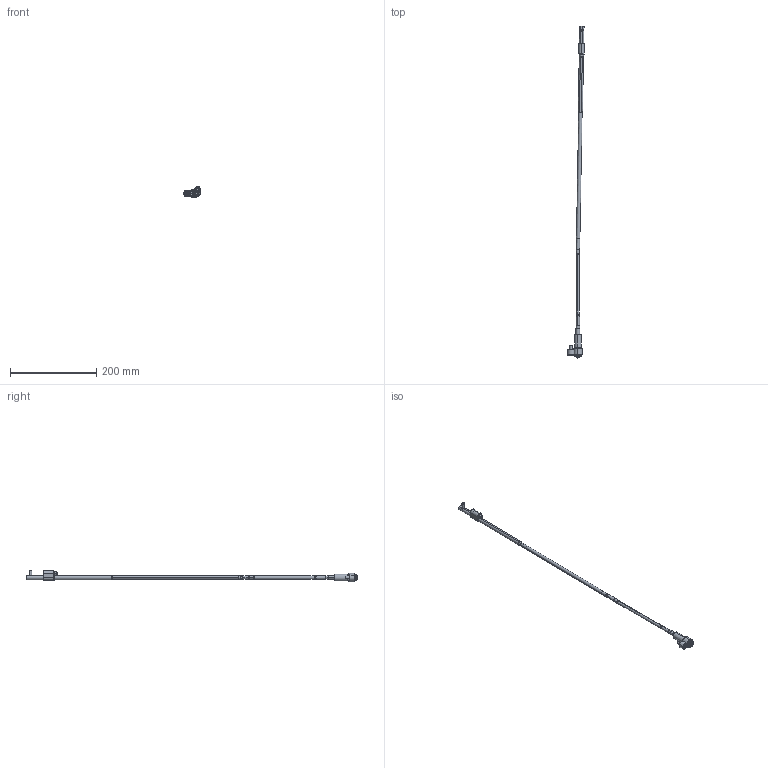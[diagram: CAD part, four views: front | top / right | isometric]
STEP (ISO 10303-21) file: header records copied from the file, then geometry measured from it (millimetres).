
FILE_DESCRIPTION (( 'STEP AP214' ), '1' );
FILE_NAME ('WL080125-INJ 1°.STEP', '2021-03-19T15:30:35', ( '' ), ( '' ), 'SwSTEP 2.0', 'SolidWorks 2019', '' );
FILE_SCHEMA (( 'AUTOMOTIVE_DESIGN' ));
Length unit declared in the file: millimetre
Products named in the file (17): WL080100-B1_WL0800FF-1; WL080100-C; 3IMAN4X2-150_con sello; WL080100-B_WL0800FF; Web-WL08-A3; WL080100-E; 1DIN912545_DIN 912 M5 x 50 --- 50C; Web-WL08-F01; WL080100-D; Web-WP08-1; Web-WL08-F00.SLDPRT; 9DR2206-TOR; Web-WL08XX-A7_OFF-WL080125-1; Web-WL08-A1; WL080125-INJ 1°; 1DIN912616_DIN 912 M6 x 16 --- 16C; Web-WL08-A2
Assembly tree (16 placements, depth 3):
  WL080125-INJ 1°
    Web-WP08-1
    Web-WL08XX-A7_OFF-WL080125-1
    Web-WL08-A3
    Web-WL08-A2
    Web-WL08-A1
    WL080100-D
    WL080100-C
    WL080100-B_WL0800FF
      WL080100-B1_WL0800FF-1
      3IMAN4X2-150_con sello
    WL080100-E
    9DR2206-TOR
    Web-WL08-F00.SLDPRT
      Web-WL08-F01
      1DIN912545_DIN 912 M5 x 50 --- 50C
      1DIN912616_DIN 912 M6 x 16 --- 16C
Bounding box: 38.93 x 772.01 x 26.9 mm (x, y, z)
Volume: 58701.8 mm3; surface area: 34416.1 mm2
Topology: 15 solids, 15 shells, 424 faces, 888 edges, 516 vertices
Faces by surface type: plane 132, cylinder 128, cone 116, torus 48
Entity records: 13492 total; most frequent: DIRECTION 2218, CARTESIAN_POINT 2045, ORIENTED_EDGE 1756, AXIS2_PLACEMENT_3D 921, EDGE_CURVE 878, VERTEX_POINT 516, CIRCLE 476, EDGE_LOOP 468
